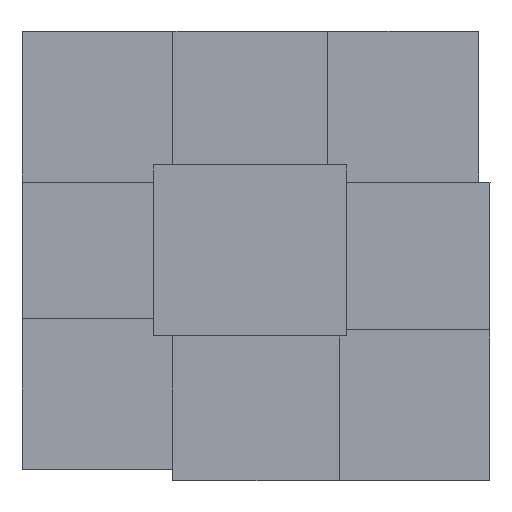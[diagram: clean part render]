
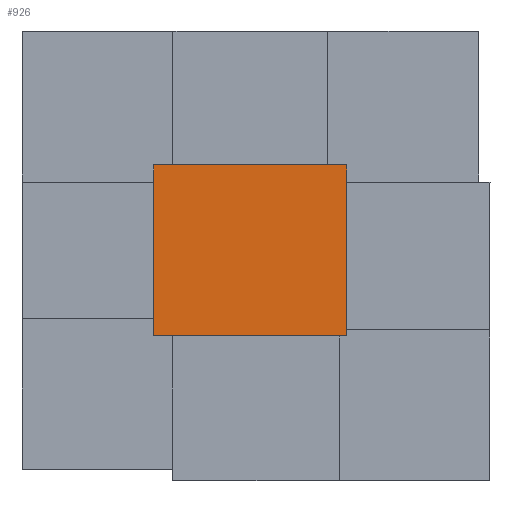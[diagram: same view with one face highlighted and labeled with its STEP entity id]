
A CAD part, left-side view. The second image highlights one B-rep face of the part: STEP entity #926.
In plain terms, the highlighted planar face has unit normal (-1, 0, 0).
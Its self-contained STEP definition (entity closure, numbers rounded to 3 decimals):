
#808=CARTESIAN_POINT('Line Origine',(0.,0.,56.5)) ;
#812=CARTESIAN_POINT('Vertex',(0.,0.,0.)) ;
#814=CARTESIAN_POINT('Vertex',(0.,0.,113.)) ;
#883=CARTESIAN_POINT('Vertex',(0.,128.,0.)) ;
#886=CARTESIAN_POINT('Line Origine',(0.,128.,56.5)) ;
#890=CARTESIAN_POINT('Vertex',(0.,128.,113.)) ;
#905=CARTESIAN_POINT('Axis2P3D Location',(0.,128.,0.)) ;
#910=CARTESIAN_POINT('Line Origine',(0.,64.,0.)) ;
#915=CARTESIAN_POINT('Line Origine',(0.,64.,113.)) ;
#809=DIRECTION('Vector Direction',(0.,0.,1.)) ;
#887=DIRECTION('Vector Direction',(0.,0.,1.)) ;
#906=DIRECTION('Axis2P3D Direction',(-1.,0.,0.)) ;
#907=DIRECTION('Axis2P3D XDirection',(0.,-1.,0.)) ;
#911=DIRECTION('Vector Direction',(0.,-1.,0.)) ;
#916=DIRECTION('Vector Direction',(0.,-1.,0.)) ;
#908=AXIS2_PLACEMENT_3D('Plane Axis2P3D',#905,#906,#907) ;
#921=ORIENTED_EDGE('',*,*,#892,.F.) ;
#922=ORIENTED_EDGE('',*,*,#914,.T.) ;
#923=ORIENTED_EDGE('',*,*,#816,.T.) ;
#924=ORIENTED_EDGE('',*,*,#919,.F.) ;
#810=VECTOR('Line Direction',#809,1.) ;
#888=VECTOR('Line Direction',#887,1.) ;
#912=VECTOR('Line Direction',#911,1.) ;
#917=VECTOR('Line Direction',#916,1.) ;
#926=ADVANCED_FACE('Body.2-molde-superior',(#925),#909,.T.) ;
#816=EDGE_CURVE('',#813,#815,#811,.T.) ;
#892=EDGE_CURVE('',#884,#891,#889,.T.) ;
#914=EDGE_CURVE('',#884,#813,#913,.T.) ;
#919=EDGE_CURVE('',#891,#815,#918,.T.) ;
#920=EDGE_LOOP('',(#921,#922,#923,#924)) ;
#925=FACE_OUTER_BOUND('',#920,.T.) ;
#811=LINE('Line',#808,#810) ;
#889=LINE('Line',#886,#888) ;
#913=LINE('Line',#910,#912) ;
#918=LINE('Line',#915,#917) ;
#909=PLANE('',#908) ;
#813=VERTEX_POINT('',#812) ;
#815=VERTEX_POINT('',#814) ;
#884=VERTEX_POINT('',#883) ;
#891=VERTEX_POINT('',#890) ;
